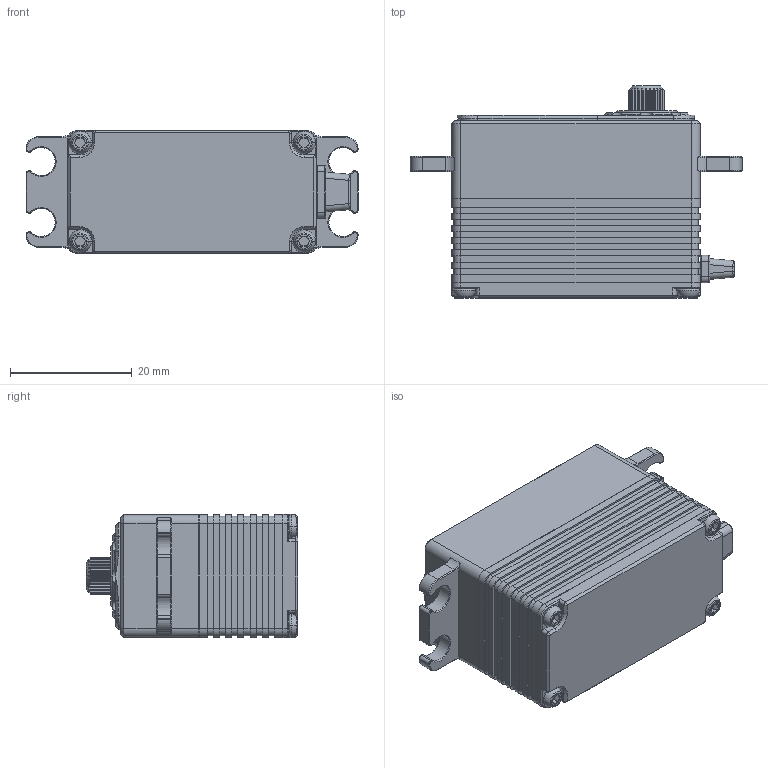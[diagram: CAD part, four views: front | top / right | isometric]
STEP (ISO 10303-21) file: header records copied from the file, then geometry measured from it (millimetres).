
FILE_DESCRIPTION((''),'2;1');
FILE_NAME('DDJ-STDLOW3-A66F','2026-03-24T',('扂'),(''),'PRO/ENGINEER BY PARAMETRIC TECHNOLOGY CORPORATION, 2010280','PRO/ENGINEER BY PARAMETRIC TECHNOLOGY CORPORATION, 2010280','');
FILE_SCHEMA(('CONFIG_CONTROL_DESIGN'));
Length unit declared in the file: millimetre
Products named in the file (1): DDJ-STDLOW3-A66F
Bounding box: 54.5 x 34.8 x 20.2 mm (x, y, z)
Volume: 24865.1 mm3; surface area: 6542.4 mm2
Topology: 1 solids, 1 shells, 766 faces, 1967 edges, 1226 vertices
Faces by surface type: cylinder 295, plane 291, cone 106, torus 50, bspline 16, sphere 8
Entity records: 26687 total; most frequent: CARTESIAN_POINT 7945, DIRECTION 3989, ORIENTED_EDGE 3922, EDGE_CURVE 1961, AXIS2_PLACEMENT_3D 1470, VERTEX_POINT 1226, VECTOR 1049, LINE 1049
